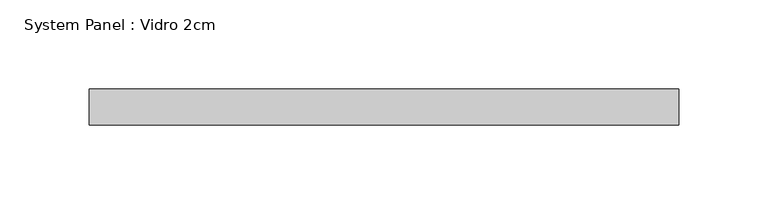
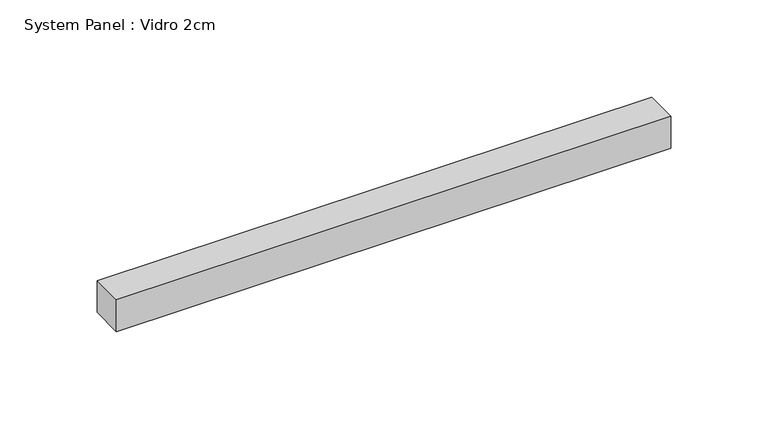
"""IFC4 building model written with IfcOpenShell, lengths in millimetres: plate geometry, System Panel : Vidro 2cm."""

import ifcopenshell
import ifcopenshell.guid

model = None  # the IFC model being written
_history = None  # IfcOwnerHistory: only IFC2X3 demands one
_inside = {}  # id of a spatial element -> (the spatial element, [elements in it])
_under = {}  # id of a project, library or spatial element -> (it, [spatial elements below it])
_declared = {}  # id of a project -> (the project, [libraries it declares])
_typed = {}  # id of a type object -> (the type object, [elements of that type])
_made_of = {}  # id of a material, layer set ... -> (it, [elements and type objects made of it])


def new_model(schema):
    """Start an empty IFC model of exactly this schema.

    Asked for "IFC4X3", IfcOpenShell would pick the latest addendum, in which some entities
    have other attributes; the version numbers below select the first issue.
    IFC2X3 requires an IfcOwnerHistory on every rooted entity: one is made here for all.
    """
    global model, _history
    if schema == "IFC4X3":
        model = ifcopenshell.file(schema_version=(4, 3, 0, 0))
    else:
        model = ifcopenshell.file(schema=schema)
    _inside.clear()
    _under.clear()
    _declared.clear()
    _typed.clear()
    _made_of.clear()
    _history = None
    if model.schema == "IFC2X3":
        org = make("IfcOrganization", Name="unknown")
        user = make(
            "IfcPersonAndOrganization",
            ThePerson=make("IfcPerson", FamilyName="unknown"),
            TheOrganization=org,
        )
        app = make(
            "IfcApplication",
            ApplicationDeveloper=org,
            Version="unknown",
            ApplicationFullName="unknown",
            ApplicationIdentifier="unknown",
        )
        _history = make(
            "IfcOwnerHistory",
            OwningUser=user,
            OwningApplication=app,
            ChangeAction="ADDED",
            CreationDate=0,
        )
    return model


def make(cls, **values):
    """One entity of the class cls with the attributes given. An attribute that is None is left unset."""
    return model.create_entity(
        cls, **{name: value for name, value in values.items() if value is not None}
    )


def rooted(cls, **values):
    """An entity with a GlobalId (a new one), such as an element, a storey or a relation."""
    return make(cls, GlobalId=ifcopenshell.guid.new(), OwnerHistory=_history, **values)


def si_unit(unit_type, name, prefix=None):
    """IfcSIUnit, for example si_unit("LENGTHUNIT", "METRE", prefix="MILLI")."""
    return make("IfcSIUnit", UnitType=unit_type, Prefix=prefix, Name=name)


def assignment(units):
    """IfcUnitAssignment: the units of a project."""
    return None if units is None else make("IfcUnitAssignment", Units=units)


def point(xyz):
    """IfcCartesianPoint."""
    return None if xyz is None else make("IfcCartesianPoint", Coordinates=xyz)


def direction(xyz):
    """IfcDirection."""
    return None if xyz is None else make("IfcDirection", DirectionRatios=xyz)


def frame(location, z_axis=None, x_axis=None):
    """IfcAxis2Placement3D, a coordinate frame: its origin and axes. An axis left out is left unset."""
    return make(
        "IfcAxis2Placement3D",
        Location=point(location),
        Axis=direction(z_axis),
        RefDirection=direction(x_axis),
    )


def origin():
    """The frame at (0, 0, 0) with its axes left unset."""
    return frame((0.0, 0.0, 0.0))


def origin_with_axes():
    """The frame at (0, 0, 0) with the z axis (0, 0, 1) and the x axis (1, 0, 0) written out."""
    return frame((0.0, 0.0, 0.0), z_axis=(0.0, 0.0, 1.0), x_axis=(1.0, 0.0, 0.0))


def place(relative_to, where):
    """IfcLocalPlacement: puts the frame where relative to a parent placement (None: the world)."""
    return make(
        "IfcLocalPlacement", PlacementRelTo=relative_to, RelativePlacement=where
    )


def context(
    kind, dimensions, precision=None, world=None, true_north=None, identifier=None
):
    """IfcGeometricRepresentationContext, for example the 3D "Model" context."""
    return make(
        "IfcGeometricRepresentationContext",
        ContextIdentifier=identifier,
        ContextType=kind,
        CoordinateSpaceDimension=dimensions,
        Precision=precision,
        WorldCoordinateSystem=world,
        TrueNorth=true_north,
    )


def project(units=None, contexts=None):
    """IfcProject with its units and contexts."""
    return rooted(
        "IfcProject",
        Name="project",
        RepresentationContexts=contexts,
        UnitsInContext=assignment(units),
    )


def spatial(cls, under=None, at=None, **own):
    """A site, building, storey or space (cls), placed at a placement, below another one or the project."""
    s = rooted(cls, ObjectPlacement=at, **own)
    if under is not None:
        _under.setdefault(under.id(), (under, []))[1].append(s)
    return s


def polyline(points):
    """IfcPolyline through the points."""
    return make("IfcPolyline", Points=[point(p) for p in points])


def outline(outer, holes=None, kind="AREA"):
    """IfcArbitraryClosedProfileDef: a profile drawn as a closed curve; with holes, ...WithVoids."""
    if holes is None:
        return make("IfcArbitraryClosedProfileDef", ProfileType=kind, OuterCurve=outer)
    return make(
        "IfcArbitraryProfileDefWithVoids",
        ProfileType=kind,
        OuterCurve=outer,
        InnerCurves=holes,
    )


def extrude(swept, where, along, depth):
    """IfcExtrudedAreaSolid: the profile swept, set in the frame where, extruded along a direction by depth."""
    return make(
        "IfcExtrudedAreaSolid",
        SweptArea=swept,
        Position=where,
        ExtrudedDirection=direction(along),
        Depth=depth,
    )


def shape(context_of_items, identifier, shape_type, items):
    """IfcShapeRepresentation: the items that make up one representation, for example the "Body"."""
    return make(
        "IfcShapeRepresentation",
        ContextOfItems=context_of_items,
        RepresentationIdentifier=identifier,
        RepresentationType=shape_type,
        Items=items,
    )


def source(mapping_origin, context_of_items, identifier, shape_type, items):
    """IfcRepresentationMap: a shape defined once, which mapped items show again and again."""
    return make(
        "IfcRepresentationMap",
        MappingOrigin=mapping_origin,
        MappedRepresentation=shape(context_of_items, identifier, shape_type, items),
    )


def transform(
    local_origin,
    x_axis=None,
    y_axis=None,
    z_axis=None,
    scale=None,
    scale2=None,
    scale3=None,
    uniform=True,
):
    """IfcCartesianTransformationOperator3D, or its non-uniform kind. x_axis, y_axis, z_axis: its Axis1, 2, 3."""
    if uniform:
        return make(
            "IfcCartesianTransformationOperator3D",
            Axis1=direction(x_axis),
            Axis2=direction(y_axis),
            LocalOrigin=point(local_origin),
            Scale=scale,
            Axis3=direction(z_axis),
        )
    return make(
        "IfcCartesianTransformationOperator3DnonUniform",
        Axis1=direction(x_axis),
        Axis2=direction(y_axis),
        LocalOrigin=point(local_origin),
        Scale=scale,
        Axis3=direction(z_axis),
        Scale2=scale2,
        Scale3=scale3,
    )


def mapped(mapping_source, mapping_target):
    """IfcMappedItem: shows the shape of a source again, moved by a transform."""
    return make(
        "IfcMappedItem", MappingSource=mapping_source, MappingTarget=mapping_target
    )


def made_of(thing, what):
    """Note that an element or type object is made of a material, layer set ...; save() writes the relation."""
    if what is not None:
        _made_of.setdefault(what.id(), (what, []))[1].append(thing)
    return thing


def element(
    cls,
    number,
    at=None,
    inside=None,
    cuts=None,
    type_object=None,
    material=None,
    context=None,
    identifier="Body",
    shape_type=None,
    held_by="IfcProductDefinitionShape",
    body=None,
    shapes=None,
    **own,
):
    """One element of the class cls, such as IfcWall. Its Tag is "e" and its number.

    at: its placement. inside: the storey or other place that contains it. cuts: it is an
    opening in that element (IfcRelVoidsElement). A single representation is given by context,
    identifier, shape_type and body (its items); several are given by shapes. held_by: the class
    of the entity that holds the representations. save() writes the other relations.
    """
    e = rooted(cls, Tag="e%d" % number, ObjectPlacement=at, **own)
    if body is not None:
        shapes = [shape(context, identifier, shape_type, body)]
    if shapes is not None:
        e.Representation = make(held_by, Representations=shapes)
    if inside is not None:
        _inside.setdefault(inside.id(), (inside, []))[1].append(e)
    if cuts is not None:
        rooted(
            "IfcRelVoidsElement", RelatingBuildingElement=cuts, RelatedOpeningElement=e
        )
    if type_object is not None:
        _typed.setdefault(type_object.id(), (type_object, []))[1].append(e)
    return made_of(e, material)


def aggregate(whole, parts):
    """IfcRelAggregates: a whole, such as a stair, and the parts it consists of."""
    return rooted("IfcRelAggregates", RelatingObject=whole, RelatedObjects=parts)


def save(model, path):
    """Write the relations noted so far, then the file.

    IfcRelAggregates (storeys below a building ...), IfcRelContainedInSpatialStructure (elements
    in a storey), IfcRelDefinesByType, IfcRelAssociatesMaterial and IfcRelDeclares: one each for
    every whole, place, type object, material and project.
    """
    for whole, parts in _under.values():
        aggregate(whole, parts)
    for where, things in _inside.values():
        rooted(
            "IfcRelContainedInSpatialStructure",
            RelatedElements=things,
            RelatingStructure=where,
        )
    for kind, things in _typed.values():
        rooted("IfcRelDefinesByType", RelatedObjects=things, RelatingType=kind)
    for what, things in _made_of.values():
        rooted("IfcRelAssociatesMaterial", RelatedObjects=things, RelatingMaterial=what)
    for by, libraries in _declared.values():
        rooted("IfcRelDeclares", RelatingContext=by, RelatedDefinitions=libraries)
    model.write(path)


def system_panel_vidro_2cm_e86970eb(model_context):
    return source(origin(), model_context, "Body", "SweptSolid", [
        extrude(outline(polyline([(165.0, 0.0), (-165.0, 0.0), (-165.0, 20.0), (165.0, 20.0), (165.0, 0.0)])), origin_with_axes(), (0.0, 0.0, 1.0), 20.0),
    ])


if __name__ == "__main__":
    model = new_model("IFC4")
    model_context = context("Model", 3, world=origin())
    ifc_project = project(units=[si_unit("LENGTHUNIT", "METRE", prefix="MILLI")], contexts=[model_context])
    site = spatial("IfcSite", under=ifc_project)
    building = spatial("IfcBuilding", under=site)
    placement = place(None, origin())
    system_panel_vidro_2cm_shape = system_panel_vidro_2cm_e86970eb(model_context)
    element("IfcPlate", 1, ObjectType="System Panel : Vidro 2cm", at=placement, inside=building, context=model_context, shape_type="MappedRepresentation", body=[
        mapped(system_panel_vidro_2cm_shape, transform((0.0, 0.0, 0.0), x_axis=(1.0, 0.0, 0.0), y_axis=(0.0, 1.0, 0.0), z_axis=(0.0, 0.0, 1.0))),
    ])
    save(model, "model.ifc")
